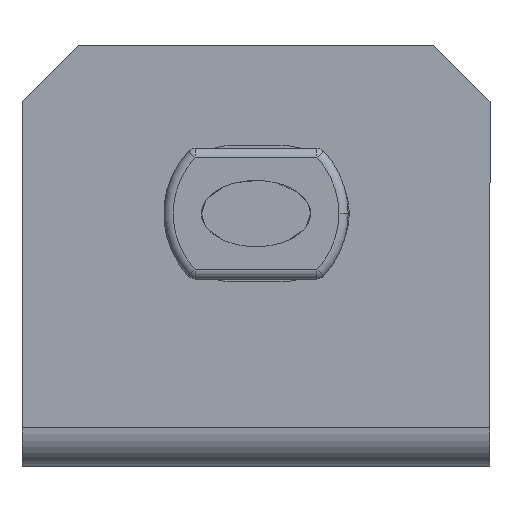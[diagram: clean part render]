
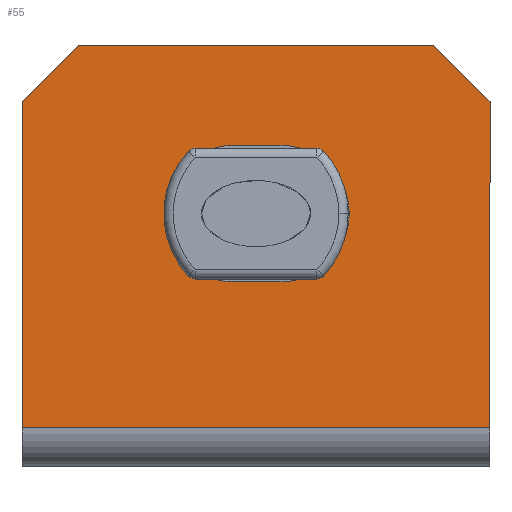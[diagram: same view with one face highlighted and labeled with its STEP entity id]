
A CAD part, front view. The second image highlights one B-rep face of the part: STEP entity #55.
In plain terms, the highlighted planar face has unit normal (0, -1, 0).
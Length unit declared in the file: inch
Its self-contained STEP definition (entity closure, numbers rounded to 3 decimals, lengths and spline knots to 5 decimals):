
#17 = VERTEX_POINT ( 'NONE', #688 ) ;
#19 = EDGE_CURVE ( 'NONE', #17, #20, #686, .T. ) ;
#20 = VERTEX_POINT ( 'NONE', #796 ) ;
#51 = VERTEX_POINT ( 'NONE', #751 ) ;
#52 = EDGE_LOOP ( 'NONE', ( #273, #285, #61, #62, #57, #270 ) ) ;
#54 = EDGE_CURVE ( 'NONE', #51, #284, #761, .T. ) ;
#55 = ADVANCED_FACE ( 'NONE', ( #762, #862 ), #861, .F. ) ;
#56 = EDGE_LOOP ( 'NONE', ( #288, #275, #279, #281 ) ) ;
#57 = ORIENTED_EDGE ( 'NONE', *, *, #160, .F. ) ;
#61 = ORIENTED_EDGE ( 'NONE', *, *, #79, .F. ) ;
#62 = ORIENTED_EDGE ( 'NONE', *, *, #63, .T. ) ;
#63 = EDGE_CURVE ( 'NONE', #80, #161, #841, .T. ) ;
#79 = EDGE_CURVE ( 'NONE', #80, #81, #785, .T. ) ;
#80 = VERTEX_POINT ( 'NONE', #868 ) ;
#81 = VERTEX_POINT ( 'NONE', #867 ) ;
#158 = VERTEX_POINT ( 'NONE', #935 ) ;
#160 = EDGE_CURVE ( 'NONE', #158, #161, #1057, .T. ) ;
#161 = VERTEX_POINT ( 'NONE', #1053 ) ;
#270 = ORIENTED_EDGE ( 'NONE', *, *, #271, .T. ) ;
#271 = EDGE_CURVE ( 'NONE', #158, #20, #1131, .T. ) ;
#272 = VERTEX_POINT ( 'NONE', #1127 ) ;
#273 = ORIENTED_EDGE ( 'NONE', *, *, #19, .F. ) ;
#274 = EDGE_CURVE ( 'NONE', #17, #81, #1126, .T. ) ;
#275 = ORIENTED_EDGE ( 'NONE', *, *, #54, .F. ) ;
#279 = ORIENTED_EDGE ( 'NONE', *, *, #280, .F. ) ;
#280 = EDGE_CURVE ( 'NONE', #287, #51, #1118, .T. ) ;
#281 = ORIENTED_EDGE ( 'NONE', *, *, #282, .F. ) ;
#282 = EDGE_CURVE ( 'NONE', #272, #287, #1111, .T. ) ;
#283 = EDGE_CURVE ( 'NONE', #284, #272, #1106, .T. ) ;
#284 = VERTEX_POINT ( 'NONE', #1102 ) ;
#285 = ORIENTED_EDGE ( 'NONE', *, *, #274, .T. ) ;
#287 = VERTEX_POINT ( 'NONE', #1101 ) ;
#288 = ORIENTED_EDGE ( 'NONE', *, *, #283, .F. ) ;
#683 = DIRECTION ( 'NONE',  ( 1., 0., 0. ) ) ;
#684 = VECTOR ( 'NONE', #683, 39.37008 ) ;
#685 = CARTESIAN_POINT ( 'NONE',  ( -0.75, 0., 0.539 ) ) ;
#686 = LINE ( 'NONE', #685, #684 ) ;
#688 = CARTESIAN_POINT ( 'NONE',  ( -0.57, 0., 0.539 ) ) ;
#751 = CARTESIAN_POINT ( 'NONE',  ( 0.08, 0., -0.219 ) ) ;
#758 = DIRECTION ( 'NONE',  ( 0., -1., 0. ) ) ;
#759 = CARTESIAN_POINT ( 'NONE',  ( 0.08, 0., 0. ) ) ;
#760 = AXIS2_PLACEMENT_3D ( 'NONE', #759, #758, #863 ) ;
#761 = CIRCLE ( 'NONE', #760, 0.219 ) ;
#762 = FACE_BOUND ( 'NONE', #56, .T. ) ;
#765 = DIRECTION ( 'NONE',  ( 0., 0., 1. ) ) ;
#766 = DIRECTION ( 'NONE',  ( 0., 1., 0. ) ) ;
#767 = CARTESIAN_POINT ( 'NONE',  ( -0.75, 0., 0.539 ) ) ;
#768 = AXIS2_PLACEMENT_3D ( 'NONE', #767, #766, #765 ) ;
#785 = LINE ( 'NONE', #871, #870 ) ;
#796 = CARTESIAN_POINT ( 'NONE',  ( 0.57, 0., 0.539 ) ) ;
#803 = DIRECTION ( 'NONE',  ( 1., 0., 0. ) ) ;
#804 = VECTOR ( 'NONE', #803, 39.37008 ) ;
#805 = CARTESIAN_POINT ( 'NONE',  ( -0.75, 0., -0.686 ) ) ;
#841 = LINE ( 'NONE', #805, #804 ) ;
#861 = PLANE ( 'NONE',  #768 ) ;
#862 = FACE_OUTER_BOUND ( 'NONE', #52, .T. ) ;
#863 = DIRECTION ( 'NONE',  ( 0., 0., -1. ) ) ;
#867 = CARTESIAN_POINT ( 'NONE',  ( -0.75, 0., 0.359 ) ) ;
#868 = CARTESIAN_POINT ( 'NONE',  ( -0.75, 0., -0.686 ) ) ;
#869 = DIRECTION ( 'NONE',  ( 0., 0., 1. ) ) ;
#870 = VECTOR ( 'NONE', #869, 39.37008 ) ;
#871 = CARTESIAN_POINT ( 'NONE',  ( -0.75, 0., -0.811 ) ) ;
#935 = CARTESIAN_POINT ( 'NONE',  ( 0.75, 0., 0.359 ) ) ;
#1053 = CARTESIAN_POINT ( 'NONE',  ( 0.75, 0., -0.686 ) ) ;
#1054 = DIRECTION ( 'NONE',  ( 0., 0., -1. ) ) ;
#1055 = VECTOR ( 'NONE', #1054, 39.37008 ) ;
#1056 = CARTESIAN_POINT ( 'NONE',  ( 0.75, 0., -0.811 ) ) ;
#1057 = LINE ( 'NONE', #1056, #1055 ) ;
#1101 = CARTESIAN_POINT ( 'NONE',  ( -0.072, 0., -0.219 ) ) ;
#1102 = CARTESIAN_POINT ( 'NONE',  ( 0.08, 0., 0.219 ) ) ;
#1103 = DIRECTION ( 'NONE',  ( -1., 0., 0. ) ) ;
#1104 = VECTOR ( 'NONE', #1103, 39.37008 ) ;
#1105 = CARTESIAN_POINT ( 'NONE',  ( 0.08, 0., 0.219 ) ) ;
#1106 = LINE ( 'NONE', #1105, #1104 ) ;
#1107 = DIRECTION ( 'NONE',  ( 0., 0., -1. ) ) ;
#1108 = DIRECTION ( 'NONE',  ( 0., -1., 0. ) ) ;
#1109 = CARTESIAN_POINT ( 'NONE',  ( -0.072, 0., 0. ) ) ;
#1110 = AXIS2_PLACEMENT_3D ( 'NONE', #1109, #1108, #1107 ) ;
#1111 = CIRCLE ( 'NONE', #1110, 0.219 ) ;
#1112 = DIRECTION ( 'NONE',  ( 1., 0., 0. ) ) ;
#1113 = VECTOR ( 'NONE', #1112, 39.37008 ) ;
#1114 = CARTESIAN_POINT ( 'NONE',  ( 0.08, 0., -0.219 ) ) ;
#1118 = LINE ( 'NONE', #1114, #1113 ) ;
#1123 = DIRECTION ( 'NONE',  ( -0.707, 0., -0.707 ) ) ;
#1124 = VECTOR ( 'NONE', #1123, 39.37008 ) ;
#1125 = CARTESIAN_POINT ( 'NONE',  ( -0.57, 0., 0.539 ) ) ;
#1126 = LINE ( 'NONE', #1125, #1124 ) ;
#1127 = CARTESIAN_POINT ( 'NONE',  ( -0.072, 0., 0.219 ) ) ;
#1128 = DIRECTION ( 'NONE',  ( -0.707, 0., 0.707 ) ) ;
#1129 = VECTOR ( 'NONE', #1128, 39.37008 ) ;
#1130 = CARTESIAN_POINT ( 'NONE',  ( 0.75, 0., 0.359 ) ) ;
#1131 = LINE ( 'NONE', #1130, #1129 ) ;
